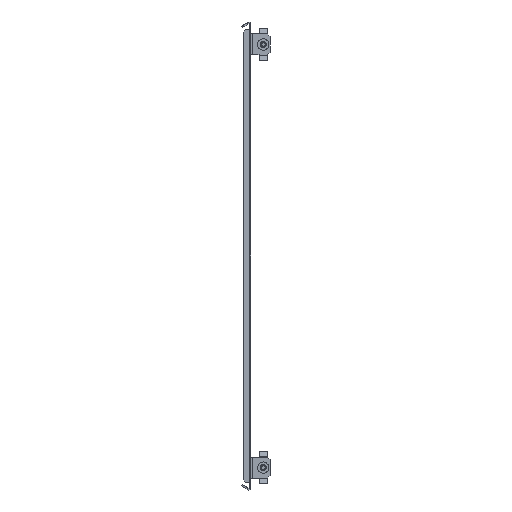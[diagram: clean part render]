
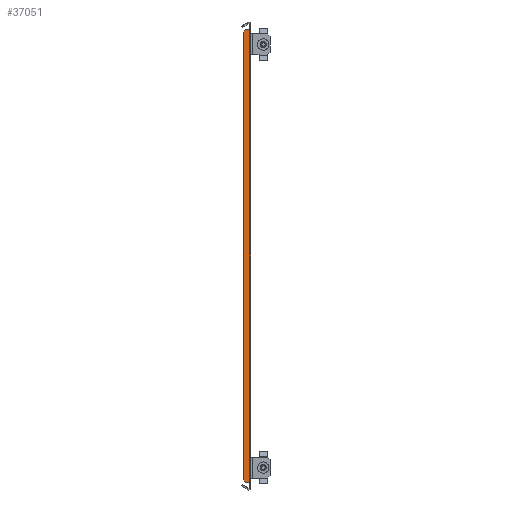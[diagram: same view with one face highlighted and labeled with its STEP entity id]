
A CAD part, front view. The second image highlights one B-rep face of the part: STEP entity #37051.
In plain terms, the highlighted planar face has unit normal (0, -1, 0).
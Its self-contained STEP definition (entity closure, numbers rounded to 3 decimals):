
#37 = VERTEX_POINT ( 'NONE', #25559 ) ;
#50 = CARTESIAN_POINT ( 'NONE',  ( 0., -353., 0. ) ) ;
#1021 = CARTESIAN_POINT ( 'NONE',  ( 0., -353., -240.897 ) ) ;
#2628 = VECTOR ( 'NONE', #21288, 1000. ) ;
#2740 = LINE ( 'NONE', #32874, #9292 ) ;
#3097 = LINE ( 'NONE', #37482, #5232 ) ;
#3626 = DIRECTION ( 'NONE',  ( 0., 0., 1. ) ) ;
#4150 = LINE ( 'NONE', #1021, #35034 ) ;
#5232 = VECTOR ( 'NONE', #27183, 1000. ) ;
#5459 = CARTESIAN_POINT ( 'NONE',  ( 0., -353., -240.897 ) ) ;
#5643 = DIRECTION ( 'NONE',  ( 0., 0., 1. ) ) ;
#5872 = VERTEX_POINT ( 'NONE', #27518 ) ;
#6570 = AXIS2_PLACEMENT_3D ( 'NONE', #21158, #11093, #31394 ) ;
#7254 = EDGE_CURVE ( 'NONE', #42442, #13031, #31313, .T. ) ;
#8133 = CARTESIAN_POINT ( 'NONE',  ( -5., -353., 240.897 ) ) ;
#9292 = VECTOR ( 'NONE', #5643, 1000. ) ;
#10888 = VERTEX_POINT ( 'NONE', #5459 ) ;
#11093 = DIRECTION ( 'NONE',  ( 0., 1., 0. ) ) ;
#11761 = FACE_OUTER_BOUND ( 'NONE', #43845, .T. ) ;
#13023 = CARTESIAN_POINT ( 'NONE',  ( 0., -353., -236.095 ) ) ;
#13031 = VERTEX_POINT ( 'NONE', #40644 ) ;
#14789 = LINE ( 'NONE', #27946, #25624 ) ;
#15215 = VERTEX_POINT ( 'NONE', #8133 ) ;
#15634 = CARTESIAN_POINT ( 'NONE',  ( -5., -353., -240.897 ) ) ;
#15662 = EDGE_CURVE ( 'NONE', #37, #15215, #14789, .T. ) ;
#15723 = ORIENTED_EDGE ( 'NONE', *, *, #15662, .T. ) ;
#15761 = ORIENTED_EDGE ( 'NONE', *, *, #23173, .T. ) ;
#16286 = VECTOR ( 'NONE', #3626, 1000. ) ;
#16428 = LINE ( 'NONE', #43886, #37957 ) ;
#17948 = CARTESIAN_POINT ( 'NONE',  ( 0., -353., 0. ) ) ;
#18126 = EDGE_CURVE ( 'NONE', #13031, #38309, #43075, .T. ) ;
#18364 = DIRECTION ( 'NONE',  ( -1., 0., 0. ) ) ;
#18734 = EDGE_CURVE ( 'NONE', #15215, #42922, #16428, .T. ) ;
#20363 = CARTESIAN_POINT ( 'NONE',  ( 0., -353., 236.095 ) ) ;
#21158 = CARTESIAN_POINT ( 'NONE',  ( 0., -353., 0. ) ) ;
#21254 = ORIENTED_EDGE ( 'NONE', *, *, #30970, .T. ) ;
#21288 = DIRECTION ( 'NONE',  ( 0., 0., 1. ) ) ;
#21337 = DIRECTION ( 'NONE',  ( 1., 0., 0. ) ) ;
#21800 = PLANE ( 'NONE',  #6570 ) ;
#21842 = CARTESIAN_POINT ( 'NONE',  ( 0., -353., 0. ) ) ;
#22477 = CARTESIAN_POINT ( 'NONE',  ( 0., -353., 213.75 ) ) ;
#23173 = EDGE_CURVE ( 'NONE', #38309, #39374, #2740, .T. ) ;
#23536 = DIRECTION ( 'NONE',  ( -0.707, 0., -0.707 ) ) ;
#23565 = LINE ( 'NONE', #33636, #38256 ) ;
#23699 = VERTEX_POINT ( 'NONE', #15634 ) ;
#24189 = ORIENTED_EDGE ( 'NONE', *, *, #43634, .T. ) ;
#25356 = VECTOR ( 'NONE', #40367, 1000. ) ;
#25559 = CARTESIAN_POINT ( 'NONE',  ( 0., -353., 240.897 ) ) ;
#25624 = VECTOR ( 'NONE', #18364, 1000. ) ;
#25836 = DIRECTION ( 'NONE',  ( 0., 0., 1. ) ) ;
#27183 = DIRECTION ( 'NONE',  ( 0., 0., -1. ) ) ;
#27518 = CARTESIAN_POINT ( 'NONE',  ( -8., -353., -237.897 ) ) ;
#27946 = CARTESIAN_POINT ( 'NONE',  ( 0., -353., 240.897 ) ) ;
#29160 = CARTESIAN_POINT ( 'NONE',  ( 0., -353., 0. ) ) ;
#29823 = EDGE_CURVE ( 'NONE', #5872, #23699, #23565, .T. ) ;
#30672 = ORIENTED_EDGE ( 'NONE', *, *, #18126, .T. ) ;
#30970 = EDGE_CURVE ( 'NONE', #39374, #37, #35899, .T. ) ;
#31313 = LINE ( 'NONE', #17948, #2628 ) ;
#31394 = DIRECTION ( 'NONE',  ( 1., 0., 0. ) ) ;
#32874 = CARTESIAN_POINT ( 'NONE',  ( 0., -353., 0. ) ) ;
#33636 = CARTESIAN_POINT ( 'NONE',  ( -122.948, -353., -122.948 ) ) ;
#33645 = ORIENTED_EDGE ( 'NONE', *, *, #38094, .T. ) ;
#35034 = VECTOR ( 'NONE', #21337, 1000. ) ;
#35899 = LINE ( 'NONE', #29160, #25356 ) ;
#36636 = EDGE_CURVE ( 'NONE', #23699, #10888, #4150, .T. ) ;
#37051 = ADVANCED_FACE ( 'NONE', ( #11761 ), #21800, .F. ) ;
#37131 = LINE ( 'NONE', #50, #16286 ) ;
#37482 = CARTESIAN_POINT ( 'NONE',  ( -8., -353., 0. ) ) ;
#37957 = VECTOR ( 'NONE', #23536, 1000. ) ;
#38094 = EDGE_CURVE ( 'NONE', #42922, #5872, #3097, .T. ) ;
#38256 = VECTOR ( 'NONE', #43911, 1000. ) ;
#38309 = VERTEX_POINT ( 'NONE', #22477 ) ;
#38400 = CARTESIAN_POINT ( 'NONE',  ( -8., -353., 237.897 ) ) ;
#39225 = ORIENTED_EDGE ( 'NONE', *, *, #7254, .T. ) ;
#39317 = VECTOR ( 'NONE', #25836, 1000. ) ;
#39374 = VERTEX_POINT ( 'NONE', #20363 ) ;
#40367 = DIRECTION ( 'NONE',  ( 0., 0., 1. ) ) ;
#40644 = CARTESIAN_POINT ( 'NONE',  ( 0., -353., -213.75 ) ) ;
#42120 = ORIENTED_EDGE ( 'NONE', *, *, #18734, .T. ) ;
#42442 = VERTEX_POINT ( 'NONE', #13023 ) ;
#42922 = VERTEX_POINT ( 'NONE', #38400 ) ;
#43075 = LINE ( 'NONE', #21842, #39317 ) ;
#43304 = ORIENTED_EDGE ( 'NONE', *, *, #36636, .T. ) ;
#43392 = ORIENTED_EDGE ( 'NONE', *, *, #29823, .T. ) ;
#43634 = EDGE_CURVE ( 'NONE', #10888, #42442, #37131, .T. ) ;
#43845 = EDGE_LOOP ( 'NONE', ( #43304, #24189, #39225, #30672, #15761, #21254, #15723, #42120, #33645, #43392 ) ) ;
#43886 = CARTESIAN_POINT ( 'NONE',  ( -122.948, -353., 122.948 ) ) ;
#43911 = DIRECTION ( 'NONE',  ( 0.707, 0., -0.707 ) ) ;
